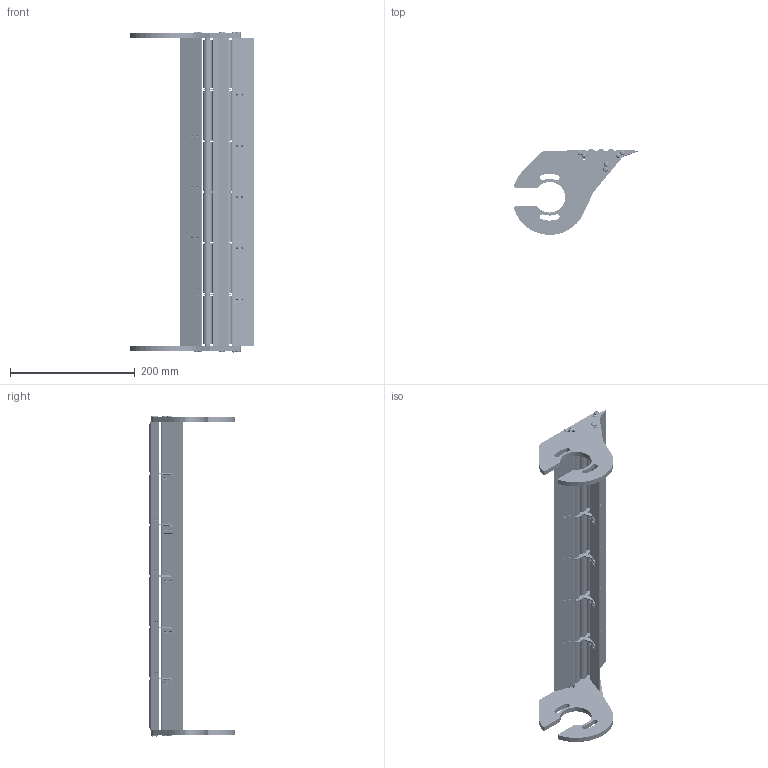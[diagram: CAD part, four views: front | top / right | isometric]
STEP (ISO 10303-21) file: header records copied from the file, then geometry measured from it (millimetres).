
FILE_DESCRIPTION (( 'STEP AP214' ), '1' );
FILE_NAME ('F2 1800 TGRI 2R.STEP', '2024-02-26T14:54:52', ( '' ), ( '' ), 'SwSTEP 2.0', 'SolidWorks 2022', '' );
FILE_SCHEMA (( 'AUTOMOTIVE_DESIGN' ));
Length unit declared in the file: millimetre
Products named in the file (13): Galet + roulement F2 1800; PSTI F2 2R Symétrie; GR F2 1800; F2 1800 TGRI 2R; AXE TGRI F2 1800; ROULEMENT TGRI CAB-F2-R-HEF; ENTRETOISE SA TGRI; PT-F2 - F2-1800 ALU; ENTRETOISE TGRI CAB-F2-R-HEF; TBHC 4X16; PSTI F2 2R; SA TGRI + ENTRETOISE; SA TGRI
Assembly tree (56 placements, depth 3):
  F2 1800 TGRI 2R
    PSTI F2 2R
    PSTI F2 2R Symétrie
    PT-F2 - F2-1800 ALU  x3
    AXE TGRI F2 1800  x3
    ENTRETOISE TGRI CAB-F2-R-HEF  x6
    SA TGRI + ENTRETOISE  x5
      SA TGRI
      ENTRETOISE SA TGRI
    Galet + roulement F2 1800  x18
      GR F2 1800
      ROULEMENT TGRI CAB-F2-R-HEF
    TBHC 4X16  x12
Bounding box: 198.67 x 136.6 x 514.78 mm (x, y, z)
Volume: 808809.2 mm3; surface area: 363797.1 mm2
Topology: 100 solids, 100 shells, 3970 faces, 8784 edges, 5129 vertices
Faces by surface type: cone 1540, cylinder 1199, plane 614, torus 527, sphere 65, bspline 25
Entity records: 17747 total; most frequent: CARTESIAN_POINT 3304, DIRECTION 3170, ORIENTED_EDGE 2606, EDGE_CURVE 1303, AXIS2_PLACEMENT_3D 1292, VERTEX_POINT 787, CIRCLE 679, EDGE_LOOP 618
